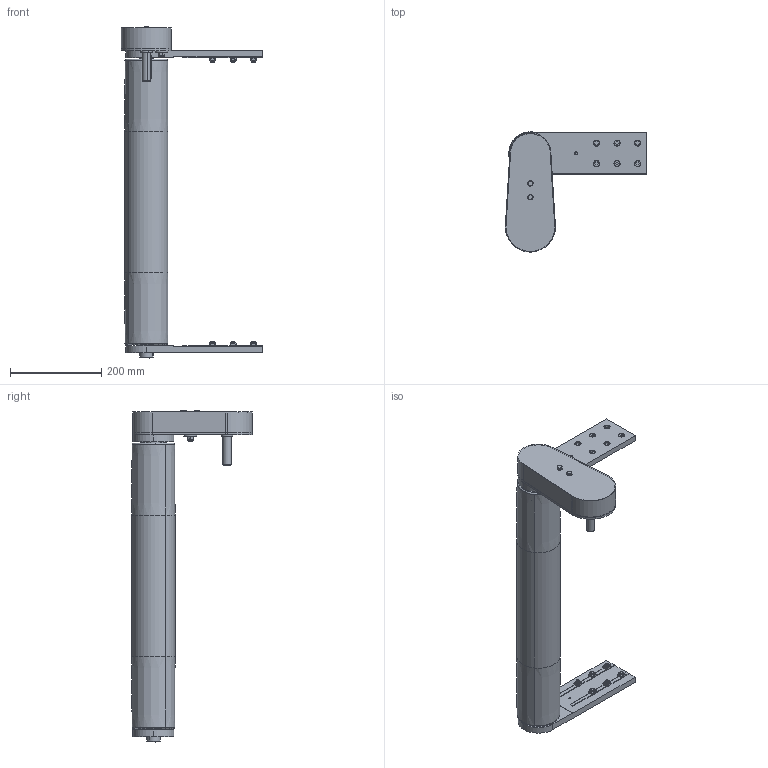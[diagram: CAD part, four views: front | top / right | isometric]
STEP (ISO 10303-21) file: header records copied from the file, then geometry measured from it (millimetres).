
FILE_DESCRIPTION (( 'STEP AP203' ), '1' );
FILE_NAME ('084.095.KTB.44.600.step', '2013-02-28T12:03:15', ( '' ), ( '' ), 'SwSTEP 2.0', 'SolidWorks 2011', '' );
FILE_SCHEMA (( 'CONFIG_CONTROL_DESIGN' ));
Length unit declared in the file: millimetre
Products named in the file (28): 084.095.KTB.44.600; Hex Screw GradeC_ALUSIC_ISO 4018 - M8 x 20-NS; Hex Screw GradeC_ALUSIC_ISO 4018 - M6 x 50-NS; ANELLI ELASTICI PER ESTERNI UNI 7435-75_Circlip DIN 471 - 30 x 1.5; CHIAVETTE_A 8x7x25 UNI 6604-69; CHIAVETTE_A 6x6x50 UNI 6604-69; Specchiatura084.302.000 DADI ALUSIC 13x13_084.302.004; 084.301.000 VITI ALUSIC_084.301.003; 084.302.000 DADI ALUSIC 13x13_084.302.004; 084.821.003; 084.810.006; Circlip for Shafts normal_din_Circlip DIN 471 - 8 x 0.8; Plain Washer XLarge Grade C_ALUSIC_Washer ISO 7094 - 8; Torque nut 01_ALUSIC_ISO 7040-M8-S; CUSCINETTI A SFERE_608-2RS; 084.810.008; 084.816.110_084.816.110<A macchina>; 084.813.004; 084.809.001; 084.821.002; 084.809.003; 084.813.002; 084.812.003; 084.802.019_084.802.019; 084.802.034_084.802.034; 084.808.002_084.808.002; 084.810.003; 084.808.003_084.808.003
Assembly tree (59 placements, depth 3):
  084.095.KTB.44.600
    ANELLI ELASTICI PER ESTERNI UNI 7435-75_Circlip DIN 471 - 30 x 1.5  x2
    CHIAVETTE_A 6x6x50 UNI 6604-69
    084.816.110_084.816.110<A macchina>
    084.808.002_084.808.002
    084.808.003_084.808.003
    Hex Screw GradeC_ALUSIC_ISO 4018 - M8 x 20-NS  x4
    084.810.003  x2
    Specchiatura084.302.000 DADI ALUSIC 13x13_084.302.004  x6
    084.821.003
    084.301.000 VITI ALUSIC_084.301.003  x12
    CHIAVETTE_A 8x7x25 UNI 6604-69  x3
    084.813.004
    084.809.003
    084.302.000 DADI ALUSIC 13x13_084.302.004  x6
    084.810.006
      Circlip for Shafts normal_din_Circlip DIN 471 - 8 x 0.8
      Torque nut 01_ALUSIC_ISO 7040-M8-S
      084.810.008
      Plain Washer XLarge Grade C_ALUSIC_Washer ISO 7094 - 8
      CUSCINETTI A SFERE_608-2RS  x3
    084.821.002  x2
    084.802.019_084.802.019
    Hex Screw GradeC_ALUSIC_ISO 4018 - M6 x 50-NS  x2
    084.813.002
    084.802.034_084.802.034
    084.812.003
    084.809.001
Bounding box: 310 x 263.87 x 727.88 mm (x, y, z)
Volume: 2387044.5 mm3; surface area: 1086119.6 mm2
Topology: 63 solids, 64 shells, 2824 faces, 7303 edges, 4674 vertices
Faces by surface type: cylinder 1020, plane 856, cone 817, torus 122, sphere 9
Entity records: 54426 total; most frequent: CARTESIAN_POINT 9747, DIRECTION 9188, ORIENTED_EDGE 8292, EDGE_CURVE 4146, AXIS2_PLACEMENT_3D 3514, VERTEX_POINT 2669, LINE 2160, VECTOR 2160
